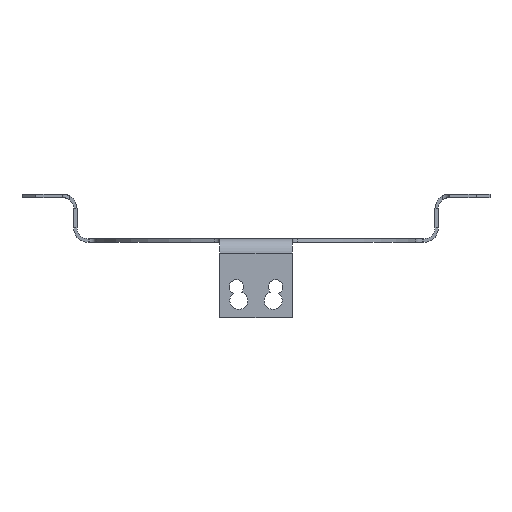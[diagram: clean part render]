
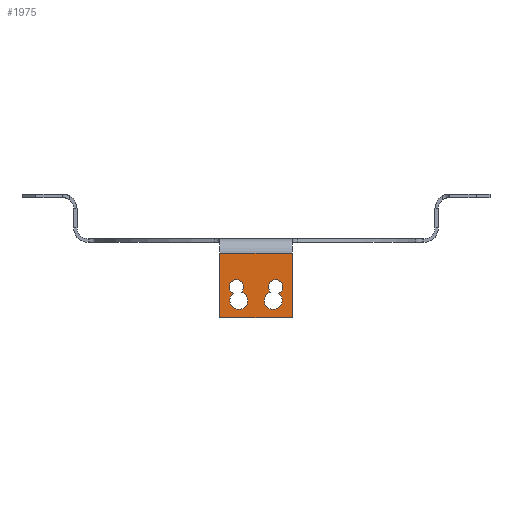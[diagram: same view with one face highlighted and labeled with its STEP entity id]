
A CAD part, front view. The second image highlights one B-rep face of the part: STEP entity #1975.
In plain terms, the highlighted planar face has unit normal (0, -1, 0).
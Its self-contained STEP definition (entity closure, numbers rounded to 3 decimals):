
#1 = DIRECTION ( 'NONE',  ( 0., 0., -1. ) ) ;
#23 = CARTESIAN_POINT ( 'NONE',  ( 2.5, -26.5, -9.771 ) ) ;
#25 = CARTESIAN_POINT ( 'NONE',  ( 3.302, -26.5, -7.448 ) ) ;
#29 = DIRECTION ( 'NONE',  ( 0., -1., 0. ) ) ;
#30 = CARTESIAN_POINT ( 'NONE',  ( -2.5, -26.5, -8.471 ) ) ;
#31 = AXIS2_PLACEMENT_3D ( 'NONE', #30, #29, #1 ) ;
#32 = CIRCLE ( 'NONE', #31, 1.3 ) ;
#64 = DIRECTION ( 'NONE',  ( 0., 0., -1. ) ) ;
#65 = DIRECTION ( 'NONE',  ( 0., -1., 0. ) ) ;
#66 = CARTESIAN_POINT ( 'NONE',  ( 2.5, -26.5, -8.471 ) ) ;
#67 = AXIS2_PLACEMENT_3D ( 'NONE', #66, #65, #64 ) ;
#68 = CIRCLE ( 'NONE', #67, 1.3 ) ;
#399 = CARTESIAN_POINT ( 'NONE',  ( -5.25, -26.5, -1.6 ) ) ;
#400 = DIRECTION ( 'NONE',  ( 1., 0., 0. ) ) ;
#401 = VECTOR ( 'NONE', #400, 1000. ) ;
#402 = CARTESIAN_POINT ( 'NONE',  ( -5.25, -26.5, -1.6 ) ) ;
#403 = LINE ( 'NONE', #402, #401 ) ;
#425 = DIRECTION ( 'NONE',  ( 0., 0., -1. ) ) ;
#432 = DIRECTION ( 'NONE',  ( 0., -1., 0. ) ) ;
#433 = CARTESIAN_POINT ( 'NONE',  ( -2.5, -26.5, -8.471 ) ) ;
#434 = AXIS2_PLACEMENT_3D ( 'NONE', #433, #432, #425 ) ;
#435 = CIRCLE ( 'NONE', #434, 1.3 ) ;
#438 = CARTESIAN_POINT ( 'NONE',  ( -3.302, -26.5, -7.448 ) ) ;
#587 = CARTESIAN_POINT ( 'NONE',  ( -2.5, -26.5, -9.771 ) ) ;
#606 = CARTESIAN_POINT ( 'NONE',  ( 5.25, -26.5, -11. ) ) ;
#607 = DIRECTION ( 'NONE',  ( 0., 0., -1. ) ) ;
#608 = VECTOR ( 'NONE', #607, 1000. ) ;
#609 = CARTESIAN_POINT ( 'NONE',  ( 5.25, -26.5, -1.6 ) ) ;
#610 = CARTESIAN_POINT ( 'NONE',  ( -5.25, -26.5, -11. ) ) ;
#611 = LINE ( 'NONE', #610, #660 ) ;
#612 = CARTESIAN_POINT ( 'NONE',  ( -5.25, -26.5, -11. ) ) ;
#618 = LINE ( 'NONE', #609, #608 ) ;
#632 = DIRECTION ( 'NONE',  ( 0., 0., -1. ) ) ;
#633 = VECTOR ( 'NONE', #632, 1000. ) ;
#634 = CARTESIAN_POINT ( 'NONE',  ( -5.25, -26.5, -1.6 ) ) ;
#635 = LINE ( 'NONE', #634, #633 ) ;
#641 = DIRECTION ( 'NONE',  ( 0., 0., -1. ) ) ;
#642 = DIRECTION ( 'NONE',  ( 0., -1., 0. ) ) ;
#643 = CARTESIAN_POINT ( 'NONE',  ( -2.85, -26.5, -6.5 ) ) ;
#644 = AXIS2_PLACEMENT_3D ( 'NONE', #643, #642, #641 ) ;
#645 = CIRCLE ( 'NONE', #644, 1.05 ) ;
#651 = DIRECTION ( 'NONE',  ( 0., -1., 0. ) ) ;
#652 = AXIS2_PLACEMENT_3D ( 'NONE', #658, #651, #676 ) ;
#653 = CIRCLE ( 'NONE', #652, 1.3 ) ;
#658 = CARTESIAN_POINT ( 'NONE',  ( 2.5, -26.5, -8.471 ) ) ;
#659 = DIRECTION ( 'NONE',  ( 1., 0., 0. ) ) ;
#660 = VECTOR ( 'NONE', #659, 1000. ) ;
#667 = CARTESIAN_POINT ( 'NONE',  ( 5.25, -26.5, -1.6 ) ) ;
#676 = DIRECTION ( 'NONE',  ( 0., 0., -1. ) ) ;
#765 = CARTESIAN_POINT ( 'NONE',  ( 2.099, -26.5, -7.234 ) ) ;
#766 = DIRECTION ( 'NONE',  ( 0., 0., -1. ) ) ;
#767 = DIRECTION ( 'NONE',  ( 0., -1., 0. ) ) ;
#768 = AXIS2_PLACEMENT_3D ( 'NONE', #769, #767, #766 ) ;
#769 = CARTESIAN_POINT ( 'NONE',  ( -5.25, -26.5, -1.6 ) ) ;
#770 = PLANE ( 'NONE',  #768 ) ;
#771 = FACE_OUTER_BOUND ( 'NONE', #1978, .T. ) ;
#772 = FACE_BOUND ( 'NONE', #1964, .T. ) ;
#774 = FACE_BOUND ( 'NONE', #1971, .T. ) ;
#781 = DIRECTION ( 'NONE',  ( 0., 0., -1. ) ) ;
#782 = DIRECTION ( 'NONE',  ( 0., -1., 0. ) ) ;
#783 = CARTESIAN_POINT ( 'NONE',  ( 2.85, -26.5, -6.5 ) ) ;
#784 = AXIS2_PLACEMENT_3D ( 'NONE', #783, #782, #781 ) ;
#785 = CIRCLE ( 'NONE', #784, 1.05 ) ;
#1600 = VERTEX_POINT ( 'NONE', #3213 ) ;
#1605 = VERTEX_POINT ( 'NONE', #23 ) ;
#1606 = VERTEX_POINT ( 'NONE', #25 ) ;
#1612 = EDGE_CURVE ( 'NONE', #1789, #1600, #32, .T. ) ;
#1623 = EDGE_CURVE ( 'NONE', #1605, #1606, #68, .T. ) ;
#1789 = VERTEX_POINT ( 'NONE', #587 ) ;
#1891 = VERTEX_POINT ( 'NONE', #438 ) ;
#1897 = EDGE_CURVE ( 'NONE', #1891, #1789, #435, .T. ) ;
#1920 = ORIENTED_EDGE ( 'NONE', *, *, #1921, .F. ) ;
#1921 = EDGE_CURVE ( 'NONE', #1922, #1951, #403, .T. ) ;
#1922 = VERTEX_POINT ( 'NONE', #399 ) ;
#1929 = ORIENTED_EDGE ( 'NONE', *, *, #1965, .F. ) ;
#1931 = EDGE_CURVE ( 'NONE', #1951, #1960, #618, .T. ) ;
#1933 = ORIENTED_EDGE ( 'NONE', *, *, #1612, .F. ) ;
#1934 = ORIENTED_EDGE ( 'NONE', *, *, #1897, .F. ) ;
#1935 = ORIENTED_EDGE ( 'NONE', *, *, #1623, .F. ) ;
#1936 = ORIENTED_EDGE ( 'NONE', *, *, #1940, .F. ) ;
#1938 = EDGE_CURVE ( 'NONE', #1939, #1960, #611, .T. ) ;
#1939 = VERTEX_POINT ( 'NONE', #612 ) ;
#1940 = EDGE_CURVE ( 'NONE', #1977, #1605, #653, .T. ) ;
#1941 = ORIENTED_EDGE ( 'NONE', *, *, #1938, .T. ) ;
#1951 = VERTEX_POINT ( 'NONE', #667 ) ;
#1960 = VERTEX_POINT ( 'NONE', #606 ) ;
#1964 = EDGE_LOOP ( 'NONE', ( #1929, #1933, #1934 ) ) ;
#1965 = EDGE_CURVE ( 'NONE', #1600, #1891, #645, .T. ) ;
#1969 = ORIENTED_EDGE ( 'NONE', *, *, #1970, .T. ) ;
#1970 = EDGE_CURVE ( 'NONE', #1922, #1939, #635, .T. ) ;
#1971 = EDGE_LOOP ( 'NONE', ( #1972, #1935, #1936 ) ) ;
#1972 = ORIENTED_EDGE ( 'NONE', *, *, #2011, .F. ) ;
#1975 = ADVANCED_FACE ( 'NONE', ( #774, #772, #771 ), #770, .T. ) ;
#1977 = VERTEX_POINT ( 'NONE', #765 ) ;
#1978 = EDGE_LOOP ( 'NONE', ( #1979, #1920, #1969, #1941 ) ) ;
#1979 = ORIENTED_EDGE ( 'NONE', *, *, #1931, .F. ) ;
#2011 = EDGE_CURVE ( 'NONE', #1606, #1977, #785, .T. ) ;
#3213 = CARTESIAN_POINT ( 'NONE',  ( -2.099, -26.5, -7.234 ) ) ;
